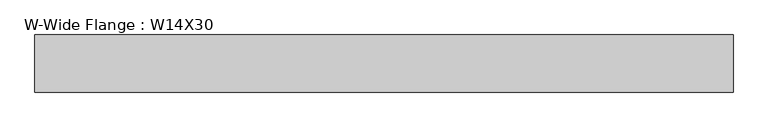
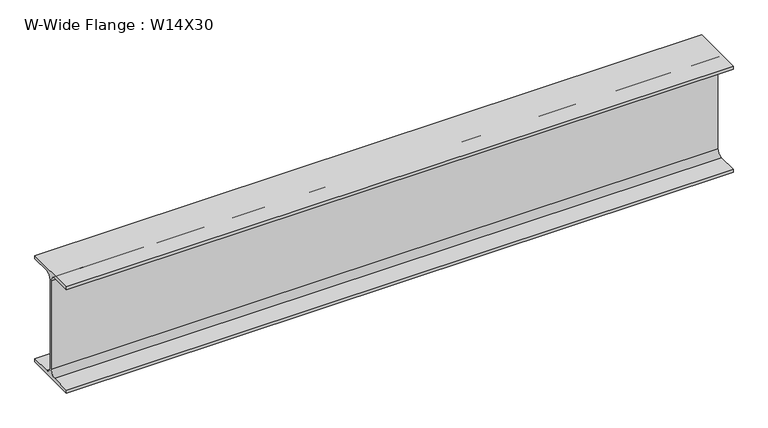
"""IFC4 building model written with IfcOpenShell, lengths in millimetres: beam geometry, W-Wide Flange : W14X30."""

from ifc_helpers import new_model, si_unit, point, frame, frame_2d, origin, place, context, project, spatial, polyline, circle_curve, trimmed, segment, composite_curve, outline, extrude, source, transform, mapped, element, save


def w_wide_flange_w14x30_4e58539d(model_context):
    return source(origin(), model_context, "Body", "SweptSolid", [
        extrude(outline(composite_curve([segment(polyline([(85.4769531, -165.9433594), (85.4769531, -175.7660156), (-85.4769531, -175.7660156), (-85.4769531, -165.9433594), (-22.1753906, -165.9433594)]), True, "CONTINUOUS"), segment(trimmed(circle_curve(frame_2d((-22.1753906, -147.1910156)), 18.7523438), [point((-22.1753906, -165.9433594))], [point((-3.4230469, -147.1910156))], True, "CARTESIAN"), True, "CONTINUOUS"), segment(polyline([(-3.4230469, -147.1910156), (-3.4230469, 147.1910156)]), True, "CONTINUOUS"), segment(trimmed(circle_curve(frame_2d((-22.1753906, 147.1910156)), 18.7523438), [point((-3.4230469, 147.1910156))], [point((-22.1753906, 165.9433594))], True, "CARTESIAN"), True, "CONTINUOUS"), segment(polyline([(-22.1753906, 165.9433594), (-85.4769531, 165.9433594), (-85.4769531, 175.7660156), (85.4769531, 175.7660156), (85.4769531, 165.9433594), (22.1753906, 165.9433594)]), True, "CONTINUOUS"), segment(trimmed(circle_curve(frame_2d((22.1753906, 147.1910156)), 18.7523438), [point((22.1753906, 165.9433594))], [point((3.4230469, 147.1910156))], True, "CARTESIAN"), True, "CONTINUOUS"), segment(polyline([(3.4230469, 147.1910156), (3.4230469, -147.1910156)]), True, "CONTINUOUS"), segment(trimmed(circle_curve(frame_2d((22.1753906, -147.1910156)), 18.7523438), [point((3.4230469, -147.1910156))], [point((22.1753906, -165.9433594))], True, "CARTESIAN"), True, "CONTINUOUS"), segment(polyline([(22.1753906, -165.9433594), (85.4769531, -165.9433594)]), True, "CONTINUOUS")], self_intersect=False)), frame((-1045.1150586, 0.0, 0.0), z_axis=(1.0, 0.0, 0.0), x_axis=(0.0, 1.0, 0.0)), (0.0, 0.0, 1.0), 2090.2301172),
    ])


if __name__ == "__main__":
    model = new_model("IFC4")
    model_context = context("Model", 3, world=origin())
    ifc_project = project(units=[si_unit("LENGTHUNIT", "METRE", prefix="MILLI")], contexts=[model_context])
    site = spatial("IfcSite", under=ifc_project)
    building = spatial("IfcBuilding", under=site)
    placement = place(None, origin())
    w_wide_flange_w14x30_shape = w_wide_flange_w14x30_4e58539d(model_context)
    element("IfcBeam", 1, ObjectType="W-Wide Flange : W14X30", at=placement, inside=building, context=model_context, shape_type="MappedRepresentation", body=[
        mapped(w_wide_flange_w14x30_shape, transform((0.0, 0.0, 0.0), x_axis=(1.0, 0.0, 0.0), y_axis=(0.0, 1.0, 0.0), z_axis=(0.0, 0.0, 1.0))),
    ])
    save(model, "model.ifc")
